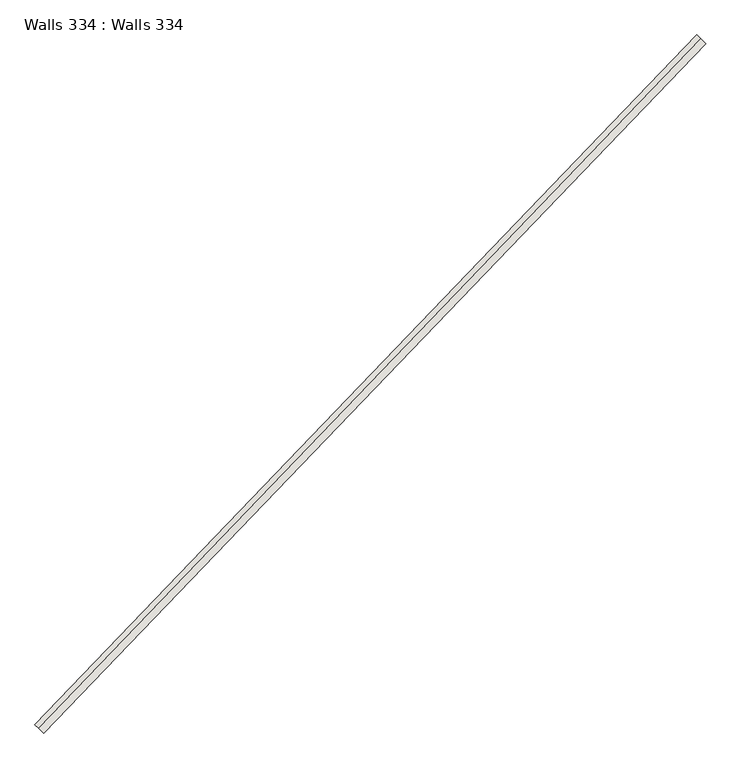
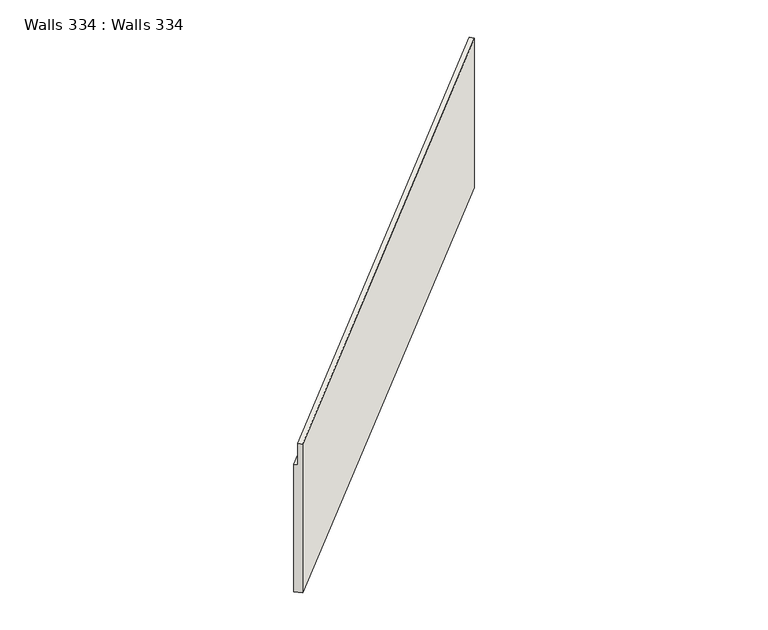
"""IFC4 building model written with IfcOpenShell, lengths in millimetres: wall geometry, Walls 334 : Walls 334."""

from ifc_helpers import new_model, si_unit, frame, origin, place, context, project, spatial, source, transform, mapped, element, save
from ifc_brep_helpers import plane_surface, spline_curve, spline_surface, advanced_brep


def walls_334_walls_334_bc1cb43d(model_context):
    return source(origin(), model_context, "Body", "AdvancedBrep", [
        advanced_brep(
        [(-150690.9303131, -268602.9357009, 636296.0), (-150435.2256988, -268841.9234626, 636296.0), (-150435.2256988, -268841.9234626, 643195.0), (-150581.3426212, -268705.3590274, 643195.0), (-150581.3426212, -268705.3590274, 642195.0), (-150690.9303131, -268602.9357009, 642195.0), (-131804.4677886, -248939.148912, 636575.0), (-131804.4677886, -248939.148912, 642515.0), (-131697.7121029, -249044.5207468, 642515.0), (-131697.7121029, -249044.5207468, 643515.0), (-131555.3711887, -249185.0165266, 643515.0), (-131555.3711887, -249185.0165266, 636575.0)],
        [
            (0, 1),
            (1, 2),
            (2, 3),
            (3, 4),
            (4, 5),
            (5, 0),
            (6, 7),
            (7, 8),
            (8, 9),
            (9, 10),
            (10, 11),
            (11, 6),
            (11, 1, spline_curve(3, [(-131555.3711887, -249185.0165266, 636575.0), (-137937.561976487, -255651.149213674, 636481.999998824), (-144231.626009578, -262204.262822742, 636389.000001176), (-150435.2256988, -268841.9234626, 636296.0)], [4, 4], [0.0, 89.44253467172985])),
            (0, 6, spline_curve(3, [(-150690.9303131, -268602.9357009, 636296.0), (-144485.159340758, -261962.951898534, 636389.000001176), (-138188.892364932, -255407.544721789, 636481.999998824), (-131804.4677886, -248939.148912, 636575.0)], [4, 4], [0.0, 89.44253467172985])),
            (10, 2, spline_curve(3, [(-131555.3711887, -249185.0165266, 643515.0), (-137937.561976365, -255651.149213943, 643408.333333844), (-144231.626008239, -262204.262822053, 643301.666666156), (-150435.2256988, -268841.9234626, 643195.0)], [4, 4], [0.0, 89.42760032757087])),
            (9, 3, spline_curve(3, [(-131697.7121029, -249044.5207468, 643515.0), (-138081.179341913, -255511.946645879, 643408.333333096), (-144376.50219964, -262066.370865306, 643301.666666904), (-150581.3426212, -268705.3590274, 643195.0)], [4, 4], [0.0, 89.43730622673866])),
            (8, 4, spline_curve(3, [(-131697.7121029, -249044.5207468, 642515.0), (-138081.179340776, -255511.946648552, 642408.333333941), (-144376.502199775, -262066.370866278, 642301.666666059), (-150581.3426212, -268705.3590274, 642195.0)], [4, 4], [0.0, 89.44624782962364])),
            (7, 5, spline_curve(3, [(-131804.4677886, -248939.148912, 642515.0), (-138188.892365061, -255407.544723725, 642408.333333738), (-144485.159342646, -261962.951900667, 642301.666666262), (-150690.9303131, -268602.9357009, 642195.0)], [4, 4], [0.0, 89.4529540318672])),
        ],
        [
            plane_surface(frame((-150569.166211, -268716.739397, 640562.0), z_axis=(-0.6828221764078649, -0.7305846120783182, 0.0), x_axis=(-0.7305846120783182, 0.6828221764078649, 0.0))),
            plane_surface(frame((-131685.85036, -249056.2287284, 640868.3333333), z_axis=(0.702478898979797, 0.7117045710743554, 0.0), x_axis=(0.7117045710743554, -0.702478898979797, 0.0))),
            spline_surface(3, 3, [[(-131804.4677886, -248939.148912, 636575.0), (-138188.89236503, -255407.544722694, 636482.0), (-144485.159341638, -261962.951899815, 636389.0), (-150690.9303131, -268602.9357009, 636296.0)], [(-131721.435588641, -249021.104783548, 636575.0), (-138105.115569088, -255488.746219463, 636482.0), (-144400.648230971, -262043.388873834, 636389.0), (-150605.695441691, -268682.598288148, 636296.0)], [(-131638.403388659, -249103.060655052, 636575.0), (-138021.338773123, -255569.947716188, 636482.0), (-144316.137120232, -262123.825847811, 636389.0), (-150520.460570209, -268762.260875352, 636296.0)], [(-131555.3711887, -249185.0165266, 636575.0), (-137937.561977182, -255651.149212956, 636482.0), (-144231.626009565, -262204.262821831, 636389.0), (-150435.2256988, -268841.9234626, 636296.0)]], [4, 4], [4, 4], [0.0, 1.148293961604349], [0.0, 89.44253467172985]),
            spline_surface(3, 3, [[(-131555.3711887, -249185.0165266, 636575.0), (-137937.561977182, -255651.149212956, 636482.0), (-144231.626009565, -262204.262821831, 636389.0), (-150435.2256988, -268841.9234626, 636296.0)], [(-131555.3711887, -249185.0165266, 638888.333333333), (-137937.561977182, -255651.149212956, 638790.777777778), (-144231.626009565, -262204.262821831, 638693.222222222), (-150435.2256988, -268841.9234626, 638595.666666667)], [(-131555.3711887, -249185.0165266, 641201.666666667), (-137937.561977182, -255651.149212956, 641099.555555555), (-144231.626009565, -262204.262821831, 640997.444444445), (-150435.2256988, -268841.9234626, 640895.333333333)], [(-131555.3711887, -249185.0165266, 643515.0), (-137937.561977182, -255651.149212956, 643408.333333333), (-144231.626009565, -262204.262821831, 643301.666666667), (-150435.2256988, -268841.9234626, 643195.0)]], [4, 4], [4, 4], [0.0, 22.70177165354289], [0.0, 89.42760032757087]),
            spline_surface(3, 3, [[(-131555.3711887, -249185.0165266, 643515.0), (-137937.561977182, -255651.149212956, 643408.333333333), (-144231.626009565, -262204.262821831, 643301.666666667), (-150435.2256988, -268841.9234626, 643195.0)], [(-131602.818160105, -249138.184600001, 643515.0), (-137985.434432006, -255604.74835766, 643408.333333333), (-144279.918072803, -262158.298836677, 643301.666666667), (-150483.931339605, -268796.401984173, 643195.0)], [(-131650.265131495, -249091.352673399, 643515.0), (-138033.306886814, -255558.34750236, 643408.333333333), (-144328.210136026, -262112.334851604, 643301.666666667), (-150532.636980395, -268750.880505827, 643195.0)], [(-131697.7121029, -249044.5207468, 643515.0), (-138081.179341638, -255511.946647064, 643408.333333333), (-144376.502199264, -262066.37086645, 643301.666666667), (-150581.3426212, -268705.3590274, 643195.0)]], [4, 4], [4, 4], [0.0, 0.656167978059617], [0.0, 89.43730622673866]),
            spline_surface(3, 3, [[(-131697.7121029, -249044.5207468, 643515.0), (-138081.179341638, -255511.946647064, 643408.333333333), (-144376.502199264, -262066.37086645, 643301.666666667), (-150581.3426212, -268705.3590274, 643195.0)], [(-131697.7121029, -249044.5207468, 643181.666666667), (-138081.179341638, -255511.946647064, 643075.0), (-144376.502199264, -262066.37086645, 642968.333333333), (-150581.3426212, -268705.3590274, 642861.666666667)], [(-131697.7121029, -249044.5207468, 642848.333333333), (-138081.179341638, -255511.946647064, 642741.666666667), (-144376.502199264, -262066.37086645, 642635.0), (-150581.3426212, -268705.3590274, 642528.333333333)], [(-131697.7121029, -249044.5207468, 642515.0), (-138081.179341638, -255511.946647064, 642408.333333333), (-144376.502199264, -262066.37086645, 642301.666666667), (-150581.3426212, -268705.3590274, 642195.0)]], [4, 4], [4, 4], [0.0, 3.280839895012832], [0.0, 89.44624782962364]),
            spline_surface(3, 3, [[(-131697.7121029, -249044.5207468, 642515.0), (-138081.179341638, -255511.946647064, 642408.333333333), (-144376.502199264, -262066.37086645, 642301.666666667), (-150581.3426212, -268705.3590274, 642195.0)], [(-131733.297331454, -249009.396801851, 642515.0), (-138117.083682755, -255477.146005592, 642408.333333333), (-144412.721246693, -262031.897877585, 642301.666666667), (-150617.871851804, -268671.21791858, 642195.0)], [(-131768.882560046, -248974.272856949, 642515.0), (-138152.988023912, -255442.345364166, 642408.333333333), (-144448.94029421, -261997.42488868, 642301.666666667), (-150654.401082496, -268637.07680972, 642195.0)], [(-131804.4677886, -248939.148912, 642515.0), (-138188.89236503, -255407.544722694, 642408.333333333), (-144485.159341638, -261962.951899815, 642301.666666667), (-150690.9303131, -268602.9357009, 642195.0)]], [4, 4], [4, 4], [0.0, 0.4921259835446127], [0.0, 89.4529540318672]),
            spline_surface(3, 3, [[(-131804.4677886, -248939.148912, 642515.0), (-138188.89236503, -255407.544722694, 642408.333333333), (-144485.159341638, -261962.951899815, 642301.666666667), (-150690.9303131, -268602.9357009, 642195.0)], [(-131804.4677886, -248939.148912, 640535.0), (-138188.89236503, -255407.544722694, 640432.888888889), (-144485.159341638, -261962.951899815, 640330.777777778), (-150690.9303131, -268602.9357009, 640228.666666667)], [(-131804.4677886, -248939.148912, 638555.0), (-138188.89236503, -255407.544722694, 638457.444444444), (-144485.159341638, -261962.951899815, 638359.888888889), (-150690.9303131, -268602.9357009, 638262.333333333)], [(-131804.4677886, -248939.148912, 636575.0), (-138188.89236503, -255407.544722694, 636482.0), (-144485.159341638, -261962.951899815, 636389.0), (-150690.9303131, -268602.9357009, 636296.0)]], [4, 4], [4, 4], [0.0, 19.42093175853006], [0.0, 89.45889620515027]),
        ],
        [
            (0, [[1, 2, 3, 4, 5, 6]]),
            (1, [[7, 8, 9, 10, 11, 12]]),
            (2, [[-12, 13, -1, 14]]),
            (3, [[-11, 15, -2, -13]]),
            (4, [[-10, 16, -3, -15]]),
            (5, [[-9, 17, -4, -16]]),
            (6, [[-8, 18, -5, -17]]),
            (7, [[-7, -14, -6, -18]]),
        ],
    ),
    ])


if __name__ == "__main__":
    model = new_model("IFC4")
    model_context = context("Model", 3, world=origin())
    ifc_project = project(units=[si_unit("LENGTHUNIT", "METRE", prefix="MILLI")], contexts=[model_context])
    site = spatial("IfcSite", under=ifc_project)
    building = spatial("IfcBuilding", under=site)
    placement = place(None, origin())
    walls_334_walls_334_shape = walls_334_walls_334_bc1cb43d(model_context)
    element("IfcWall", 1, ObjectType="Walls 334 : Walls 334", at=placement, inside=building, context=model_context, shape_type="MappedRepresentation", body=[
        mapped(walls_334_walls_334_shape, transform((0.0, 0.0, 0.0), x_axis=(1.0, 0.0, 0.0), y_axis=(0.0, 1.0, 0.0), z_axis=(0.0, 0.0, 1.0))),
    ])
    save(model, "model.ifc")
